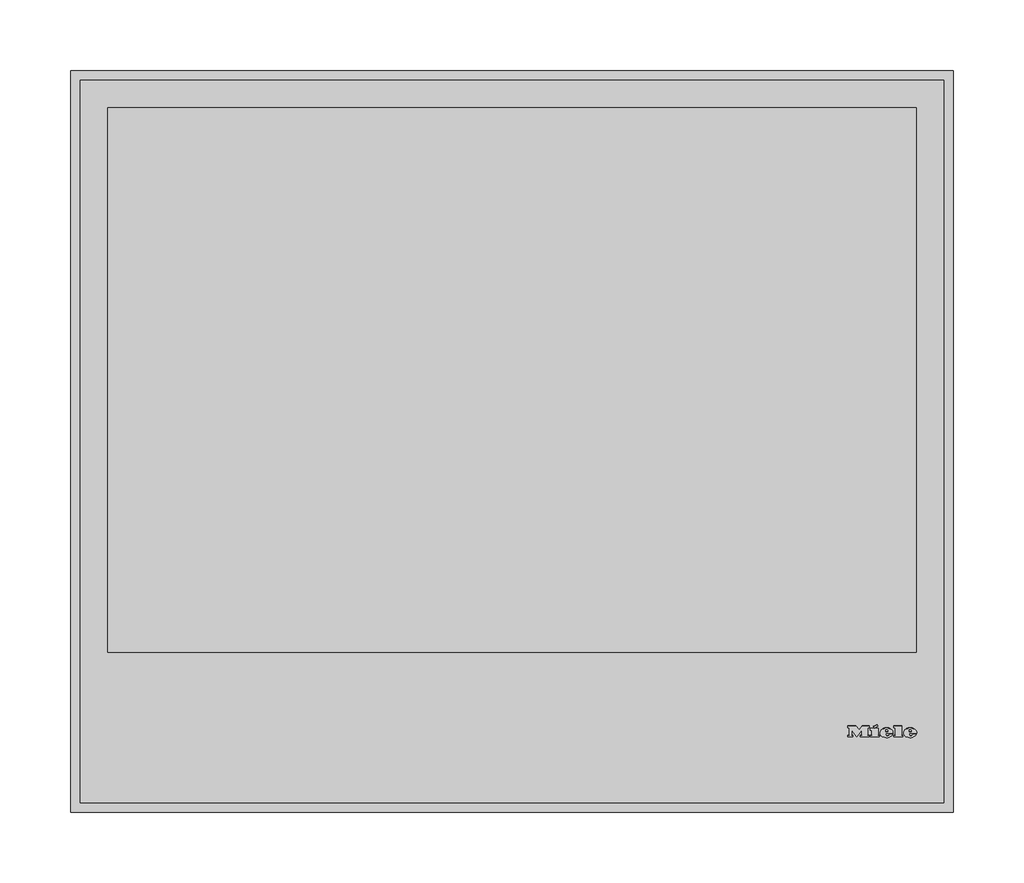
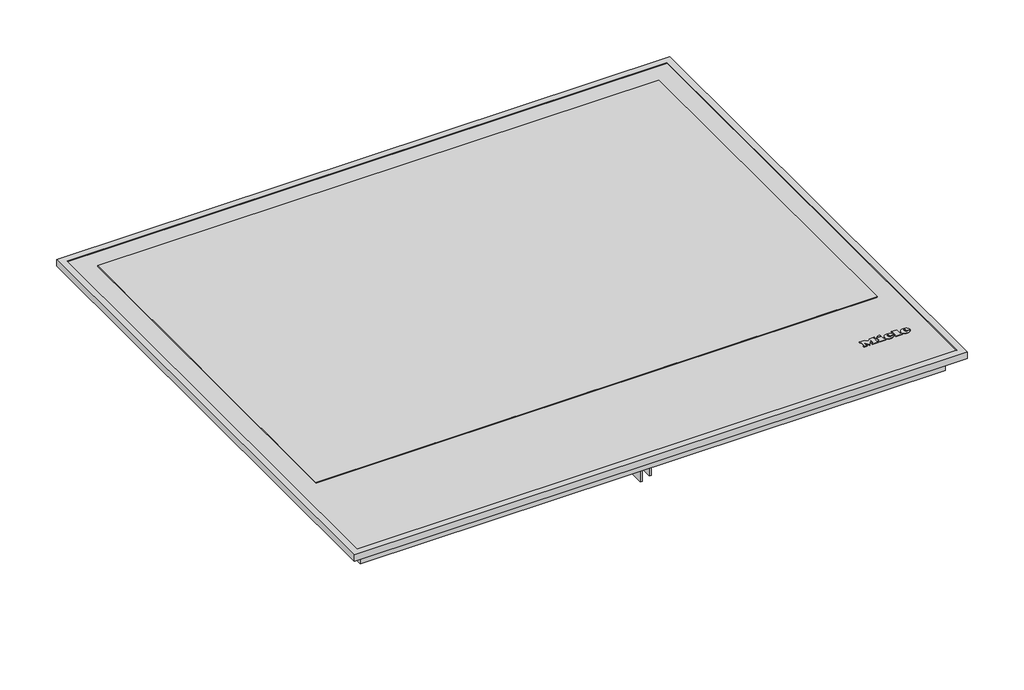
# Not in any storey: 1 proxy.
"""IFC4 building model written with IfcOpenShell, lengths in millimetres."""

import ifcopenshell
import ifcopenshell.guid

model = None  # the IFC model being written
_history = None  # IfcOwnerHistory: only IFC2X3 demands one
_inside = {}  # id of a spatial element -> (the spatial element, [elements in it])
_under = {}  # id of a project, library or spatial element -> (it, [spatial elements below it])
_declared = {}  # id of a project -> (the project, [libraries it declares])
_typed = {}  # id of a type object -> (the type object, [elements of that type])
_made_of = {}  # id of a material, layer set ... -> (it, [elements and type objects made of it])


def new_model(schema):
    """Start an empty IFC model of exactly this schema.

    Asked for "IFC4X3", IfcOpenShell would pick the latest addendum, in which some entities
    have other attributes; the version numbers below select the first issue.
    IFC2X3 requires an IfcOwnerHistory on every rooted entity: one is made here for all.
    """
    global model, _history
    if schema == "IFC4X3":
        model = ifcopenshell.file(schema_version=(4, 3, 0, 0))
    else:
        model = ifcopenshell.file(schema=schema)
    _inside.clear()
    _under.clear()
    _declared.clear()
    _typed.clear()
    _made_of.clear()
    _history = None
    if model.schema == "IFC2X3":
        org = make("IfcOrganization", Name="unknown")
        user = make(
            "IfcPersonAndOrganization",
            ThePerson=make("IfcPerson", FamilyName="unknown"),
            TheOrganization=org,
        )
        app = make(
            "IfcApplication",
            ApplicationDeveloper=org,
            Version="unknown",
            ApplicationFullName="unknown",
            ApplicationIdentifier="unknown",
        )
        _history = make(
            "IfcOwnerHistory",
            OwningUser=user,
            OwningApplication=app,
            ChangeAction="ADDED",
            CreationDate=0,
        )
    return model


def make(cls, **values):
    """One entity of the class cls with the attributes given. An attribute that is None is left unset."""
    return model.create_entity(
        cls, **{name: value for name, value in values.items() if value is not None}
    )


def rooted(cls, **values):
    """An entity with a GlobalId (a new one), such as an element, a storey or a relation."""
    return make(cls, GlobalId=ifcopenshell.guid.new(), OwnerHistory=_history, **values)


def si_unit(unit_type, name, prefix=None):
    """IfcSIUnit, for example si_unit("LENGTHUNIT", "METRE", prefix="MILLI")."""
    return make("IfcSIUnit", UnitType=unit_type, Prefix=prefix, Name=name)


def assignment(units):
    """IfcUnitAssignment: the units of a project."""
    return None if units is None else make("IfcUnitAssignment", Units=units)


def point(xyz):
    """IfcCartesianPoint."""
    return None if xyz is None else make("IfcCartesianPoint", Coordinates=xyz)


def direction(xyz):
    """IfcDirection."""
    return None if xyz is None else make("IfcDirection", DirectionRatios=xyz)


def frame(location, z_axis=None, x_axis=None):
    """IfcAxis2Placement3D, a coordinate frame: its origin and axes. An axis left out is left unset."""
    return make(
        "IfcAxis2Placement3D",
        Location=point(location),
        Axis=direction(z_axis),
        RefDirection=direction(x_axis),
    )


def frame_2d(location, x_axis=None):
    """IfcAxis2Placement2D, a coordinate frame in the plane: its origin and x axis."""
    return make(
        "IfcAxis2Placement2D", Location=point(location), RefDirection=direction(x_axis)
    )


def origin():
    """The frame at (0, 0, 0) with its axes left unset."""
    return frame((0.0, 0.0, 0.0))


def place(relative_to, where):
    """IfcLocalPlacement: puts the frame where relative to a parent placement (None: the world)."""
    return make(
        "IfcLocalPlacement", PlacementRelTo=relative_to, RelativePlacement=where
    )


def context(
    kind, dimensions, precision=None, world=None, true_north=None, identifier=None
):
    """IfcGeometricRepresentationContext, for example the 3D "Model" context."""
    return make(
        "IfcGeometricRepresentationContext",
        ContextIdentifier=identifier,
        ContextType=kind,
        CoordinateSpaceDimension=dimensions,
        Precision=precision,
        WorldCoordinateSystem=world,
        TrueNorth=true_north,
    )


def project(units=None, contexts=None):
    """IfcProject with its units and contexts."""
    return rooted(
        "IfcProject",
        Name="project",
        RepresentationContexts=contexts,
        UnitsInContext=assignment(units),
    )


def spatial(cls, under=None, at=None, **own):
    """A site, building, storey or space (cls), placed at a placement, below another one or the project."""
    s = rooted(cls, ObjectPlacement=at, **own)
    if under is not None:
        _under.setdefault(under.id(), (under, []))[1].append(s)
    return s


def polyline(points):
    """IfcPolyline through the points."""
    return make("IfcPolyline", Points=[point(p) for p in points])


def circle_curve(where, radius):
    """IfcCircle in the frame where."""
    return make("IfcCircle", Position=where, Radius=radius)


def ellipse_curve(where, semi_axis1, semi_axis2):
    """IfcEllipse in the frame where."""
    return make(
        "IfcEllipse", Position=where, SemiAxis1=semi_axis1, SemiAxis2=semi_axis2
    )


def trimmed(basis, trim1, trim2, sense, master):
    """IfcTrimmedCurve: the piece of a basis curve between two trims."""
    return make(
        "IfcTrimmedCurve",
        BasisCurve=basis,
        Trim1=trim1,
        Trim2=trim2,
        SenseAgreement=sense,
        MasterRepresentation=master,
    )


def segment(curve, same_sense, transition):
    """IfcCompositeCurveSegment."""
    return make(
        "IfcCompositeCurveSegment",
        Transition=transition,
        SameSense=same_sense,
        ParentCurve=curve,
    )


def composite_curve(segments, self_intersect=None):
    """IfcCompositeCurve: segments joined end to end."""
    return make("IfcCompositeCurve", Segments=segments, SelfIntersect=self_intersect)


def outline(outer, holes=None, kind="AREA"):
    """IfcArbitraryClosedProfileDef: a profile drawn as a closed curve; with holes, ...WithVoids."""
    if holes is None:
        return make("IfcArbitraryClosedProfileDef", ProfileType=kind, OuterCurve=outer)
    return make(
        "IfcArbitraryProfileDefWithVoids",
        ProfileType=kind,
        OuterCurve=outer,
        InnerCurves=holes,
    )


def extrude(swept, where, along, depth):
    """IfcExtrudedAreaSolid: the profile swept, set in the frame where, extruded along a direction by depth."""
    return make(
        "IfcExtrudedAreaSolid",
        SweptArea=swept,
        Position=where,
        ExtrudedDirection=direction(along),
        Depth=depth,
    )


def faces_of(points, faces, orient=None, outer=None):
    """IfcFace entities. A face is a list of loops; a loop is a list of indices into points, from 0.

    orient and outer hold one flag for each loop. By default every Orientation is true, the
    first loop of a face is its IfcFaceOuterBound and the others are IfcFaceBound.
    """
    made = []
    for i, loops in enumerate(faces):
        bounds = []
        for j, loop in enumerate(loops):
            is_outer = j == 0 if outer is None else outer[i][j]
            bounds.append(
                make(
                    "IfcFaceOuterBound" if is_outer else "IfcFaceBound",
                    Bound=make("IfcPolyLoop", Polygon=[points[k] for k in loop]),
                    Orientation=True if orient is None else orient[i][j],
                )
            )
        made.append(make("IfcFace", Bounds=bounds))
    return made


def faceted_brep(points, faces, orient=None, outer=None, voids=None):
    """IfcFacetedBrep: a solid bounded by flat faces; with voids (closed shells), ...WithVoids."""
    shared = [point(p) for p in points]
    hull = make("IfcClosedShell", CfsFaces=faces_of(shared, faces, orient, outer))
    if voids is None:
        return make("IfcFacetedBrep", Outer=hull)
    return make(
        "IfcFacetedBrepWithVoids",
        Outer=hull,
        Voids=[
            make(cls, CfsFaces=faces_of(shared, fs, o, b)) for cls, fs, o, b in voids
        ],
    )


def shape(context_of_items, identifier, shape_type, items):
    """IfcShapeRepresentation: the items that make up one representation, for example the "Body"."""
    return make(
        "IfcShapeRepresentation",
        ContextOfItems=context_of_items,
        RepresentationIdentifier=identifier,
        RepresentationType=shape_type,
        Items=items,
    )


def source(mapping_origin, context_of_items, identifier, shape_type, items):
    """IfcRepresentationMap: a shape defined once, which mapped items show again and again."""
    return make(
        "IfcRepresentationMap",
        MappingOrigin=mapping_origin,
        MappedRepresentation=shape(context_of_items, identifier, shape_type, items),
    )


def transform(
    local_origin,
    x_axis=None,
    y_axis=None,
    z_axis=None,
    scale=None,
    scale2=None,
    scale3=None,
    uniform=True,
):
    """IfcCartesianTransformationOperator3D, or its non-uniform kind. x_axis, y_axis, z_axis: its Axis1, 2, 3."""
    if uniform:
        return make(
            "IfcCartesianTransformationOperator3D",
            Axis1=direction(x_axis),
            Axis2=direction(y_axis),
            LocalOrigin=point(local_origin),
            Scale=scale,
            Axis3=direction(z_axis),
        )
    return make(
        "IfcCartesianTransformationOperator3DnonUniform",
        Axis1=direction(x_axis),
        Axis2=direction(y_axis),
        LocalOrigin=point(local_origin),
        Scale=scale,
        Axis3=direction(z_axis),
        Scale2=scale2,
        Scale3=scale3,
    )


def mapped(mapping_source, mapping_target):
    """IfcMappedItem: shows the shape of a source again, moved by a transform."""
    return make(
        "IfcMappedItem", MappingSource=mapping_source, MappingTarget=mapping_target
    )


def made_of(thing, what):
    """Note that an element or type object is made of a material, layer set ...; save() writes the relation."""
    if what is not None:
        _made_of.setdefault(what.id(), (what, []))[1].append(thing)
    return thing


def element(
    cls,
    number,
    at=None,
    inside=None,
    cuts=None,
    type_object=None,
    material=None,
    context=None,
    identifier="Body",
    shape_type=None,
    held_by="IfcProductDefinitionShape",
    body=None,
    shapes=None,
    **own,
):
    """One element of the class cls, such as IfcWall. Its Tag is "e" and its number.

    at: its placement. inside: the storey or other place that contains it. cuts: it is an
    opening in that element (IfcRelVoidsElement). A single representation is given by context,
    identifier, shape_type and body (its items); several are given by shapes. held_by: the class
    of the entity that holds the representations. save() writes the other relations.
    """
    e = rooted(cls, Tag="e%d" % number, ObjectPlacement=at, **own)
    if body is not None:
        shapes = [shape(context, identifier, shape_type, body)]
    if shapes is not None:
        e.Representation = make(held_by, Representations=shapes)
    if inside is not None:
        _inside.setdefault(inside.id(), (inside, []))[1].append(e)
    if cuts is not None:
        rooted(
            "IfcRelVoidsElement", RelatingBuildingElement=cuts, RelatedOpeningElement=e
        )
    if type_object is not None:
        _typed.setdefault(type_object.id(), (type_object, []))[1].append(e)
    return made_of(e, material)


def aggregate(whole, parts):
    """IfcRelAggregates: a whole, such as a stair, and the parts it consists of."""
    return rooted("IfcRelAggregates", RelatingObject=whole, RelatedObjects=parts)


def save(model, path):
    """Write the relations noted so far, then the file.

    IfcRelAggregates (storeys below a building ...), IfcRelContainedInSpatialStructure (elements
    in a storey), IfcRelDefinesByType, IfcRelAssociatesMaterial and IfcRelDeclares: one each for
    every whole, place, type object, material and project.
    """
    for whole, parts in _under.values():
        aggregate(whole, parts)
    for where, things in _inside.values():
        rooted(
            "IfcRelContainedInSpatialStructure",
            RelatedElements=things,
            RelatingStructure=where,
        )
    for kind, things in _typed.values():
        rooted("IfcRelDefinesByType", RelatedObjects=things, RelatingType=kind)
    for what, things in _made_of.values():
        rooted("IfcRelAssociatesMaterial", RelatedObjects=things, RelatingMaterial=what)
    for by, libraries in _declared.values():
        rooted("IfcRelDeclares", RelatingContext=by, RelatedDefinitions=libraries)
    model.write(path)


def plane_surface(at):
    """IfcPlane: the flat surface through the origin of the frame at, square to its z axis."""
    return make("IfcPlane", Position=at)


def cylinder_surface(at, radius):
    """IfcCylindricalSurface: all points at the distance radius from the z axis of the frame at."""
    return make("IfcCylindricalSurface", Position=at, Radius=radius)


def revolved_surface(curve, axis_point, axis_direction):
    """IfcSurfaceOfRevolution: the curve turned about the line through axis_point along axis_direction."""
    return make(
        "IfcSurfaceOfRevolution",
        SweptCurve=make("IfcArbitraryOpenProfileDef", ProfileType="CURVE", Curve=curve),
        AxisPosition=make("IfcAxis1Placement", Location=point(axis_point), Axis=direction(axis_direction)),
    )


def extruded_surface(curve, direction_of_extrusion, depth):
    """IfcSurfaceOfLinearExtrusion: the curve pushed along a direction by depth."""
    return make(
        "IfcSurfaceOfLinearExtrusion",
        SweptCurve=make("IfcArbitraryOpenProfileDef", ProfileType="CURVE", Curve=curve),
        ExtrudedDirection=direction(direction_of_extrusion),
        Depth=depth,
    )


def advanced_brep(points, edges, surfaces, faces):
    """IfcAdvancedBrep: a solid bounded by faces that lie on surfaces and meet in shared edges.

    An edge is (start, end): straight between two places in points (the first is 0);
    or (start, end, curve); or (start, end, curve, False) where it runs against its curve.
    A face is (place in surfaces, loops), or (place, loops, False) where it looks against
    its surface's normal. A loop lists edges by number (the first is 1), with a minus sign
    where the edge is run from its end to its start. The first loop is the outer one.
    """
    corners = [point(p) for p in points]
    vertices = [make("IfcVertexPoint", VertexGeometry=c) for c in corners]
    made = []
    for start, end, *more in edges:
        made.append(
            make(
                "IfcEdgeCurve",
                EdgeStart=vertices[start],
                EdgeEnd=vertices[end],
                EdgeGeometry=more[0] if more else make("IfcPolyline", Points=[corners[start], corners[end]]),
                SameSense=more[1] if len(more) > 1 else True,
            )
        )
    hull = []
    for where, loops, *sense in faces:
        bounds = []
        for j, loop in enumerate(loops):
            ring = [make("IfcOrientedEdge", EdgeElement=made[abs(k) - 1], Orientation=k > 0) for k in loop]
            bounds.append(
                make(
                    "IfcFaceOuterBound" if j == 0 else "IfcFaceBound",
                    Bound=make("IfcEdgeLoop", EdgeList=ring),
                    Orientation=True,
                )
            )
        hull.append(make("IfcAdvancedFace", Bounds=bounds, FaceSurface=surfaces[where], SameSense=sense[0] if sense else True))
    return make("IfcAdvancedBrep", Outer=make("IfcClosedShell", CfsFaces=hull))


def specialty_equipment_535f46d4(model_context):
    return source(origin(), model_context, "Body", "SolidModel", [
        advanced_brep(
        [(281.56, 55.3948833, 6.4802537), (281.56, 56.2028828, 6.4811551), (286.912, 56.2028828, 6.4811551), (277.6, 56.2028828, 6.4811551), (279.8, 53.4988845, 6.4781386), (286.776, 55.3948833, 6.4802537), (284.36, 55.3948833, 6.4802537), (282.456, 54.4988838, 6.4792542), (281.56, 57.2268821, 6.4822974), (281.56, 58.0988816, 6.4832701), (282.928, 58.0988816, 6.4832701), (282.928, 57.2268821, 6.4822974), (281.56, 55.3959988, 5.4802543), (282.456, 54.4999994, 5.4792548), (284.36, 55.3959988, 5.4802543), (286.776, 55.3959988, 5.4802543), (279.8, 53.5, 5.4781393), (277.6, 56.2039983, 5.4811557), (286.912, 56.2039983, 5.4811557), (281.56, 56.2039983, 5.4811557), (281.56, 57.2279977, 5.482298), (282.928, 57.2279977, 5.482298), (282.928, 58.0999971, 5.4832707), (281.56, 58.0999971, 5.4832707)],
        [
            (0, 1),
            (1, 2),
            (2, 3, ellipse_curve(frame((282.256, 56.2028828, 6.4811551), z_axis=(0.0, -0.0011155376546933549, 0.9999993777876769), x_axis=(-1.0, 0.0, 0.0)), 4.656, 3.848)),
            (3, 4, circle_curve(frame((280.6960436, 56.4748826, 6.4814585), z_axis=(0.0, -0.0011155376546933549, 0.9999993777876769), x_axis=(0.0, -0.9999993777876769, -0.0011155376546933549)), 3.1079688)),
            (4, 5, circle_curve(frame((282.1627936, 58.5868813, 6.4838145), z_axis=(0.0, -0.0011155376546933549, 0.9999993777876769), x_axis=(0.0, -0.9999993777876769, -0.0011155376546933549)), 5.6098607)),
            (5, 6),
            (6, 7, circle_curve(frame((282.8470588, 56.1388828, 6.4810837), z_axis=(0.0, 0.0011155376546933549, -0.9999993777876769), x_axis=(0.0, -0.9999993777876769, -0.0011155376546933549)), 1.6859795)),
            (7, 0, circle_curve(frame((282.456, 55.3948833, 6.4802537), z_axis=(0.0, 0.0011155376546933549, -0.9999993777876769), x_axis=(0.0, -0.9999993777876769, -0.0011155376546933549)), 0.896)),
            (8, 9),
            (9, 10, circle_curve(frame((282.244, 58.0988816, 6.4832701), z_axis=(0.0, 0.0011155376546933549, -0.9999993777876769), x_axis=(0.0, -0.9999993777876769, -0.0011155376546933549)), 0.684)),
            (10, 11),
            (11, 8),
            (12, 13, circle_curve(frame((282.456, 55.3959988, 5.4802543), z_axis=(0.0, -0.0011155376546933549, 0.9999993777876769), x_axis=(0.0, -0.9999993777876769, -0.0011155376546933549)), 0.896)),
            (13, 14, circle_curve(frame((282.8470588, 56.1399984, 5.4810843), z_axis=(0.0, -0.0011155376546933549, 0.9999993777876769), x_axis=(0.0, -0.9999993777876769, -0.0011155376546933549)), 1.6859795)),
            (14, 15),
            (15, 16, circle_curve(frame((282.1627936, 58.5879968, 5.4838151), z_axis=(0.0, 0.0011155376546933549, -0.9999993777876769), x_axis=(0.0, -0.9999993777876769, -0.0011155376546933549)), 5.6098607)),
            (16, 17, circle_curve(frame((280.6960436, 56.4759981, 5.4814591), z_axis=(0.0, 0.0011155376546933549, -0.9999993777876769), x_axis=(0.0, -0.9999993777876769, -0.0011155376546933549)), 3.1079688)),
            (17, 18, ellipse_curve(frame((282.256, 56.2039983, 5.4811557), z_axis=(0.0, 0.0011155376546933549, -0.9999993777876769), x_axis=(-1.0, 0.0, 0.0)), 4.656, 3.848)),
            (18, 19),
            (19, 12),
            (20, 21),
            (21, 22),
            (22, 23, circle_curve(frame((282.244, 58.0999971, 5.4832707), z_axis=(0.0, -0.0011155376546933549, 0.9999993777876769), x_axis=(0.0, -0.9999993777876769, -0.0011155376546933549)), 0.684)),
            (23, 20),
            (0, 12),
            (19, 1),
            (18, 2),
            (5, 15),
            (14, 6),
            (17, 3),
            (13, 7),
            (16, 4),
            (8, 20),
            (23, 9),
            (22, 10),
            (21, 11),
        ],
        [
            plane_surface(frame((281.56, 56.2028828, 6.4811551), z_axis=(0.0, -0.0011155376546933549, 0.9999993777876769), x_axis=(0.0, 0.9999993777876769, 0.0011155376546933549))),
            plane_surface(frame((281.56, 56.2039983, 5.4811557), z_axis=(0.0, 0.0011155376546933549, -0.9999993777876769), x_axis=(0.0, -0.9999993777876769, -0.0011155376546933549))),
            plane_surface(frame((281.56, 55.3948833, 6.4802537), z_axis=(1.0000000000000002, 0.0, 0.0), x_axis=(0.0, 0.001115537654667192, -0.999999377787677))),
            plane_surface(frame((281.56, 56.2028828, 6.4811551), z_axis=(0.0, -0.999999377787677, -0.001115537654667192), x_axis=(0.0, 0.001115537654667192, -0.999999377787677))),
            plane_surface(frame((286.776, 55.3948833, 6.4802537), z_axis=(0.0, 0.999999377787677, 0.001115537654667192), x_axis=(0.0, 0.001115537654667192, -0.999999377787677))),
            extruded_surface(trimmed(ellipse_curve(frame((282.256, 56.2051139, 4.4811563), z_axis=(0.0, -0.0011155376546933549, 0.9999993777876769), x_axis=(-1.0, 0.0, 0.0)), 4.656, 3.848), [point((286.912, 56.2051139, 4.4811563))], [point((277.6, 56.2051139, 4.4811563))], True, "CARTESIAN"), (0.0, -0.001115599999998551, 0.9999994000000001), 1.00000002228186),
            revolved_surface(polyline([(282.8470588, 54.454019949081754, 5.479203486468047), (282.8470588, 54.45290441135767, 6.4792029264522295)]), (282.8470588, 56.1399984, 5.4810843), (0.0, 0.0011155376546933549, -0.9999993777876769)),
            revolved_surface(polyline([(282.456, 54.49999935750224, 5.479254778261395), (282.456, 54.49888381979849, 6.479254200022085)]), (282.456, 55.3959988, 5.4802543), (0.0, 0.0011155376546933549, -0.9999993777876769)),
            cylinder_surface(frame((280.6960436, 56.4759981, 5.4814591), z_axis=(0.0, -0.0011155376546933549, 0.9999993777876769), x_axis=(0.0, -0.9999993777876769, -0.0011155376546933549)), 3.1079688),
            cylinder_surface(frame((282.1627936, 58.5879968, 5.4838151), z_axis=(0.0, -0.0011155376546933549, 0.9999993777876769), x_axis=(0.0, -0.9999993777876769, -0.0011155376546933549)), 5.6098607),
            plane_surface(frame((281.56, 57.2268821, 6.4822974), z_axis=(1.0000000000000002, 0.0, 0.0), x_axis=(0.0, 0.001115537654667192, -0.999999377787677))),
            revolved_surface(polyline([(282.244, 57.415997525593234, 5.48250767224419), (282.244, 57.41488198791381, 6.482507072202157)]), (282.244, 58.0999971, 5.4832707), (0.0, 0.0011155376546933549, -0.9999993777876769)),
            plane_surface(frame((282.928, 58.0988816, 6.4832701), z_axis=(-1.0000000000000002, 0.0, 0.0), x_axis=(0.0, 0.001115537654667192, -0.999999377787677))),
            plane_surface(frame((282.928, 57.2268821, 6.4822974), z_axis=(0.0, 0.999999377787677, 0.001115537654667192), x_axis=(0.0, 0.001115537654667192, -0.999999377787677))),
        ],
        [
            (0, [[1, 2, 3, 4, 5, 6, 7, 8], [9, 10, 11, 12]]),
            (1, [[13, 14, 15, 16, 17, 18, 19, 20], [21, 22, 23, 24]]),
            (2, [[-1, 25, -20, 26]]),
            (3, [[-2, -26, -19, 27]]),
            (4, [[-6, 28, -15, 29]]),
            (5, [[-3, -27, -18, 30]]),
            (6, [[-7, -29, -14, 31]]),
            (7, [[-8, -31, -13, -25]]),
            (8, [[-4, -30, -17, 32]]),
            (9, [[-5, -32, -16, -28]]),
            (10, [[-9, 33, -24, 34]]),
            (11, [[-10, -34, -23, 35]]),
            (12, [[-11, -35, -22, 36]]),
            (13, [[-12, -36, -21, -33]]),
        ],
    ),
        advanced_brep(
        [(264.864, 55.3948833, 6.4802537), (264.864, 56.2028828, 6.4811551), (270.216, 56.2028828, 6.4811551), (260.904, 56.2028828, 6.4811551), (263.104, 53.4988845, 6.4781386), (270.08, 55.3948833, 6.4802537), (267.664, 55.3948833, 6.4802537), (265.76, 54.4988838, 6.4792542), (264.864, 57.2268821, 6.4822974), (264.864, 58.0988816, 6.4832701), (266.232, 58.0988816, 6.4832701), (266.232, 57.2268821, 6.4822974), (264.864, 55.3959988, 5.4802543), (265.76, 54.4999994, 5.4792548), (267.664, 55.3959988, 5.4802543), (270.08, 55.3959988, 5.4802543), (263.104, 53.5, 5.4781393), (260.904, 56.2039983, 5.4811557), (270.216, 56.2039983, 5.4811557), (264.864, 56.2039983, 5.4811557), (264.864, 57.2279977, 5.482298), (266.232, 57.2279977, 5.482298), (266.232, 58.0999971, 5.4832707), (264.864, 58.0999971, 5.4832707)],
        [
            (0, 1),
            (1, 2),
            (2, 3, ellipse_curve(frame((265.56, 56.2028828, 6.4811551), z_axis=(0.0, -0.0011155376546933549, 0.9999993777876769), x_axis=(-1.0, 0.0, 0.0)), 4.656, 3.848)),
            (3, 4, circle_curve(frame((264.0000436, 56.4748826, 6.4814585), z_axis=(0.0, -0.0011155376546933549, 0.9999993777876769), x_axis=(0.0, -0.9999993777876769, -0.0011155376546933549)), 3.1079688)),
            (4, 5, circle_curve(frame((265.4667936, 58.5868813, 6.4838145), z_axis=(0.0, -0.0011155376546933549, 0.9999993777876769), x_axis=(0.0, -0.9999993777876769, -0.0011155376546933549)), 5.6098607)),
            (5, 6),
            (6, 7, circle_curve(frame((266.1510588, 56.1388828, 6.4810837), z_axis=(0.0, 0.0011155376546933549, -0.9999993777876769), x_axis=(0.0, -0.9999993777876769, -0.0011155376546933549)), 1.6859795)),
            (7, 0, circle_curve(frame((265.76, 55.3948833, 6.4802537), z_axis=(0.0, 0.0011155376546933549, -0.9999993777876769), x_axis=(0.0, -0.9999993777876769, -0.0011155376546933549)), 0.896)),
            (8, 9),
            (9, 10, circle_curve(frame((265.548, 58.0988816, 6.4832701), z_axis=(0.0, 0.0011155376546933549, -0.9999993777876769), x_axis=(0.0, -0.9999993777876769, -0.0011155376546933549)), 0.684)),
            (10, 11),
            (11, 8),
            (12, 13, circle_curve(frame((265.76, 55.3959988, 5.4802543), z_axis=(0.0, -0.0011155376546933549, 0.9999993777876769), x_axis=(0.0, -0.9999993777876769, -0.0011155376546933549)), 0.896)),
            (13, 14, circle_curve(frame((266.1510588, 56.1399984, 5.4810843), z_axis=(0.0, -0.0011155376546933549, 0.9999993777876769), x_axis=(0.0, -0.9999993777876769, -0.0011155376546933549)), 1.6859795)),
            (14, 15),
            (15, 16, circle_curve(frame((265.4667936, 58.5879968, 5.4838151), z_axis=(0.0, 0.0011155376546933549, -0.9999993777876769), x_axis=(0.0, -0.9999993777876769, -0.0011155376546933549)), 5.6098607)),
            (16, 17, circle_curve(frame((264.0000436, 56.4759981, 5.4814591), z_axis=(0.0, 0.0011155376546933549, -0.9999993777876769), x_axis=(0.0, -0.9999993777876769, -0.0011155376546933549)), 3.1079688)),
            (17, 18, ellipse_curve(frame((265.56, 56.2039983, 5.4811557), z_axis=(0.0, 0.0011155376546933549, -0.9999993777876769), x_axis=(-1.0, 0.0, 0.0)), 4.656, 3.848)),
            (18, 19),
            (19, 12),
            (20, 21),
            (21, 22),
            (22, 23, circle_curve(frame((265.548, 58.0999971, 5.4832707), z_axis=(0.0, -0.0011155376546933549, 0.9999993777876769), x_axis=(0.0, -0.9999993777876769, -0.0011155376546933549)), 0.684)),
            (23, 20),
            (0, 12),
            (19, 1),
            (18, 2),
            (5, 15),
            (14, 6),
            (17, 3),
            (13, 7),
            (16, 4),
            (8, 20),
            (23, 9),
            (22, 10),
            (21, 11),
        ],
        [
            plane_surface(frame((264.864, 56.2028828, 6.4811551), z_axis=(0.0, -0.0011155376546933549, 0.9999993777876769), x_axis=(0.0, 0.9999993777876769, 0.0011155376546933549))),
            plane_surface(frame((264.864, 56.2039983, 5.4811557), z_axis=(0.0, 0.0011155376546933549, -0.9999993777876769), x_axis=(0.0, -0.9999993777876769, -0.0011155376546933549))),
            plane_surface(frame((264.864, 55.3948833, 6.4802537), z_axis=(1.0000000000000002, 0.0, 0.0), x_axis=(0.0, 0.001115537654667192, -0.999999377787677))),
            plane_surface(frame((264.864, 56.2028828, 6.4811551), z_axis=(0.0, -0.999999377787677, -0.001115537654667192), x_axis=(0.0, 0.001115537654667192, -0.999999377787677))),
            plane_surface(frame((270.08, 55.3948833, 6.4802537), z_axis=(0.0, 0.999999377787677, 0.001115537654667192), x_axis=(0.0, 0.001115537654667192, -0.999999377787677))),
            extruded_surface(trimmed(ellipse_curve(frame((265.56, 56.2051139, 4.4811563), z_axis=(0.0, -0.0011155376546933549, 0.9999993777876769), x_axis=(-1.0, 0.0, 0.0)), 4.656, 3.848), [point((270.216, 56.2051139, 4.4811563))], [point((260.904, 56.2051139, 4.4811563))], True, "CARTESIAN"), (0.0, -0.001115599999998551, 0.9999994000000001), 1.00000002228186),
            revolved_surface(polyline([(266.1510588, 54.454019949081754, 5.479203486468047), (266.1510588, 54.45290441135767, 6.4792029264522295)]), (266.1510588, 56.1399984, 5.4810843), (0.0, 0.0011155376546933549, -0.9999993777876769)),
            revolved_surface(polyline([(265.76, 54.49999935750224, 5.479254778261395), (265.76, 54.49888381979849, 6.479254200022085)]), (265.76, 55.3959988, 5.4802543), (0.0, 0.0011155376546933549, -0.9999993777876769)),
            cylinder_surface(frame((264.0000436, 56.4759981, 5.4814591), z_axis=(0.0, -0.0011155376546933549, 0.9999993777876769), x_axis=(0.0, -0.9999993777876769, -0.0011155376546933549)), 3.1079688),
            cylinder_surface(frame((265.4667936, 58.5879968, 5.4838151), z_axis=(0.0, -0.0011155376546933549, 0.9999993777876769), x_axis=(0.0, -0.9999993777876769, -0.0011155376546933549)), 5.6098607),
            plane_surface(frame((264.864, 57.2268821, 6.4822974), z_axis=(1.0000000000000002, 0.0, 0.0), x_axis=(0.0, 0.001115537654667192, -0.999999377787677))),
            revolved_surface(polyline([(265.548, 57.415997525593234, 5.48250767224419), (265.548, 57.41488198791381, 6.482507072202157)]), (265.548, 58.0999971, 5.4832707), (0.0, 0.0011155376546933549, -0.9999993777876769)),
            plane_surface(frame((266.232, 58.0988816, 6.4832701), z_axis=(-1.0000000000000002, 0.0, 0.0), x_axis=(0.0, 0.001115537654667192, -0.999999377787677))),
            plane_surface(frame((266.232, 57.2268821, 6.4822974), z_axis=(0.0, 0.999999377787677, 0.001115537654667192), x_axis=(0.0, 0.001115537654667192, -0.999999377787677))),
        ],
        [
            (0, [[1, 2, 3, 4, 5, 6, 7, 8], [9, 10, 11, 12]]),
            (1, [[13, 14, 15, 16, 17, 18, 19, 20], [21, 22, 23, 24]]),
            (2, [[-1, 25, -20, 26]]),
            (3, [[-2, -26, -19, 27]]),
            (4, [[-6, 28, -15, 29]]),
            (5, [[-3, -27, -18, 30]]),
            (6, [[-7, -29, -14, 31]]),
            (7, [[-8, -31, -13, -25]]),
            (8, [[-4, -30, -17, 32]]),
            (9, [[-5, -32, -16, -28]]),
            (10, [[-9, 33, -24, 34]]),
            (11, [[-10, -34, -23, 35]]),
            (12, [[-11, -35, -22, 36]]),
            (13, [[-12, -36, -21, -33]]),
        ],
    ),
        extrude(outline(polyline([(0.0, 0.0), (-0.0109086, -2.9993294), (-1.4390415, -2.9920868), (-1.4315307, 0.0), (0.0, 0.0)])), frame((256.12, 61.0279953, 5.486537), z_axis=(0.0, -0.001115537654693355, 0.999999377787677), x_axis=(-0.4247202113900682, 0.9053240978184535, 0.0010099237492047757)), (0.0, 0.0, 1.0), 1.0),
        extrude(outline(polyline([(-0.4933908, 2.4141097), (-2.7800844, -2.4601583), (-7.0459741, -0.4588767), (-7.4401145, -1.299018), (-8.6568709, -0.728194), (-5.9760369, 4.9862153), (-4.7592805, 4.4153913), (-5.1636142, 3.5535222), (-2.1941493, 2.1604399), (-1.7898157, 3.022309), (-0.4933908, 2.4141097)])), frame((256.12, 61.0279953, 5.486537), z_axis=(0.0, -0.001115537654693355, 0.999999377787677), x_axis=(-0.4247202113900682, 0.9053240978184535, 0.0010099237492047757)), (0.0, 0.0, 1.0), 1.0),
        extrude(outline(polyline([(0.0, 0.0), (0.0, -1.304), (-5.504, -1.304), (-5.504, 5.3519999), (-6.488, 5.3519999), (-6.488, 6.696), (0.0, 6.696), (0.0, 5.3519999), (-0.96, 5.3519999), (-0.96, 0.0), (0.0, 0.0)])), frame((270.664, 60.1959958, 5.4856089), z_axis=(0.0, -0.0011155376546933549, 0.9999993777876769), x_axis=(-1.0, 0.0, 0.0)), (0.0, 0.0, 1.0), 1.0),
        extrude(outline(polyline([(0.0, 0.0), (0.0, -1.304), (-5.576, -1.304), (-7.92, 1.696), (-10.256, -1.304), (-15.128, -1.304), (-15.128, 0.0), (-14.112, 0.0), (-14.112, 5.3519999), (-15.128, 5.3519999), (-15.128, 6.696), (-8.744, 6.696), (-8.744, 5.3519999), (-9.728, 5.3519999), (-9.728, 1.8807777), (-6.136, 6.696), (-2.56, 1.9488752), (-2.56, 5.3519999), (-3.52, 5.3519999), (-3.52, 6.696), (0.0, 6.696), (0.0, 5.3519999), (-0.968, 5.3519999), (-0.968, 0.0), (0.0, 0.0)])), frame((238.2, 60.1959958, 5.4856089), z_axis=(0.0, -0.0011155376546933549, 0.9999993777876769), x_axis=(-1.0, 0.0, 0.0)), (0.0, 0.0, 1.0), 1.0),
        extrude(outline(polyline([(210.7772603, 467.0), (203.4, 467.0), (203.4, 468.2557039), (209.5215564, 468.2557039), (209.5215564, 471.5519266), (203.870889, 471.5519266), (203.870889, 472.8076304), (209.5215564, 472.8076304), (209.5215564, 475.7899271), (203.556963, 475.7899271), (203.556963, 477.045631), (210.7772603, 477.045631), (210.7772603, 467.0)])), frame((0.0, 0.0, -77.5), z_axis=(0.0, 0.0, 1.0), x_axis=(1.0, 0.0, 0.0)), (0.0, 0.0, 1.0), 1.0),
        extrude(outline(polyline([(201.5164442, 467.0), (195.2379248, 467.0), (195.2379248, 468.2557039), (200.2607403, 468.2557039), (200.2607403, 477.045631), (201.5164442, 477.045631), (201.5164442, 467.0)])), frame((0.0, 0.0, -77.5), z_axis=(0.0, 0.0, 1.0), x_axis=(1.0, 0.0, 0.0)), (0.0, 0.0, 1.0), 1.0),
        extrude(outline(polyline([(17.0, -27.0), (17.0, -16.8), (65.5, -16.8), (65.5, -43.0), (33.0, -43.0), (33.0, -27.0), (17.0, -27.0)])), frame((-2.0, 0.0, 0.0), z_axis=(1.0, 0.0, 0.0), x_axis=(0.0, 1.0, 0.0)), (0.0, 0.0, 1.0), 2.0),
        extrude(outline(polyline([(493.0, -27.0), (493.0, -43.0), (485.5, -43.0), (485.5, -16.8), (509.0, -16.8), (509.0, -27.0), (493.0, -27.0)])), frame((-2.0, 0.0, 0.0), z_axis=(1.0, 0.0, 0.0), x_axis=(0.0, 1.0, 0.0)), (0.0, 0.0, 1.0), 2.0),
        extrude(outline(polyline([(265.5, 485.5), (265.5, 65.5), (-265.5, 65.5), (-265.5, 485.5), (265.5, 485.5)])), frame((0.0, 0.0, -46.5), z_axis=(0.0, 0.0, 1.0), x_axis=(1.0, 0.0, 0.0)), (0.0, 0.0, 1.0), 29.7),
        extrude(outline(polyline([(312.0, 524.0), (312.0, 1.0), (-312.0, 1.0), (-312.0, 524.0), (312.0, 524.0)])), frame((0.0, 0.0, 2.0), z_axis=(0.0, 0.0, 1.0), x_axis=(1.0, 0.0, 0.0)), (0.0, 0.0, 1.0), 4.0),
        extrude(outline(polyline([(298.5, 511.5), (298.5, 14.5), (-298.5, 14.5), (-298.5, 511.5), (298.5, 511.5)])), frame((0.0, 0.0, -16.8), z_axis=(0.0, 0.0, 1.0), x_axis=(1.0, 0.0, 0.0)), (0.0, 0.0, 1.0), 18.8),
        faceted_brep([(306.0, 519.0, 7.0), (306.0, 519.0, 6.0), (306.0, 7.0, 6.0), (306.0, 7.0, 7.0), (313.0, 526.0, 0.0), (313.0, 526.0, 7.0), (313.0, 0.0, 7.0), (313.0, 0.0, 0.0), (312.0, 525.0, 6.0), (312.0, 525.0, 0.0), (312.0, 1.0, 0.0), (312.0, 1.0, 6.0), (-306.0, 7.0, 6.0), (-306.0, 7.0, 7.0), (-313.0, 0.0, 7.0), (-313.0, 0.0, 0.0), (-312.0, 1.0, 0.0), (-312.0, 1.0, 6.0), (-306.0, 519.0, 6.0), (-306.0, 519.0, 7.0), (-313.0, 526.0, 7.0), (-313.0, 526.0, 0.0), (-312.0, 525.0, 0.0), (-312.0, 525.0, 6.0)], [[[0, 1, 2, 3]], [[4, 5, 6, 7]], [[8, 9, 10, 11]], [[3, 2, 12, 13]], [[7, 6, 14, 15]], [[11, 10, 16, 17]], [[13, 12, 18, 19]], [[15, 14, 20, 21]], [[17, 16, 22, 23]], [[19, 18, 1, 0]], [[5, 20, 14, 6], [3, 13, 19, 0]], [[21, 20, 5, 4]], [[7, 15, 21, 4], [9, 22, 16, 10]], [[23, 22, 9, 8]], [[11, 17, 23, 8], [1, 18, 12, 2]]]),
        extrude(outline(composite_curve([segment(trimmed(circle_curve(frame_2d((203.4, 472.0)), 7.5), [point((203.4, 479.5))], [point((203.4, 464.5))], False, "CARTESIAN"), True, "CONTINUOUS"), segment(trimmed(circle_curve(frame_2d((203.4, 472.0)), 7.5), [point((203.4, 464.5))], [point((203.4, 479.5))], False, "CARTESIAN"), True, "CONTINUOUS")], self_intersect=False)), frame((0.0, 0.0, -76.5), z_axis=(0.0, 0.0, 1.0), x_axis=(1.0, 0.0, 0.0)), (0.0, 0.0, 1.0), 30.0),
        extrude(outline(polyline([(286.5, 499.5), (286.5, 113.5), (-286.5, 113.5), (-286.5, 499.5), (286.5, 499.5)])), frame((0.0, 0.0, 6.0), z_axis=(0.0, 0.0, 1.0), x_axis=(1.0, 0.0, 0.0)), (0.0, 0.0, 1.0), 1.0),
        extrude(outline(composite_curve([segment(trimmed(circle_curve(frame_2d((-291.0, 83.0)), 3.0), [point((-291.0, 86.0))], [point((-291.0, 80.0))], False, "CARTESIAN"), True, "CONTINUOUS"), segment(trimmed(circle_curve(frame_2d((-291.0, 83.0)), 3.0), [point((-291.0, 80.0))], [point((-291.0, 86.0))], False, "CARTESIAN"), True, "CONTINUOUS")], self_intersect=False)), frame((0.0, 0.0, -22.0), z_axis=(0.0, 0.0, 1.0), x_axis=(1.0, 0.0, 0.0)), (0.0, 0.0, 1.0), 5.2),
        extrude(outline(composite_curve([segment(trimmed(circle_curve(frame_2d((291.0, 443.0)), 3.0), [point((291.0, 446.0))], [point((291.0, 440.0))], False, "CARTESIAN"), True, "CONTINUOUS"), segment(trimmed(circle_curve(frame_2d((291.0, 443.0)), 3.0), [point((291.0, 440.0))], [point((291.0, 446.0))], False, "CARTESIAN"), True, "CONTINUOUS")], self_intersect=False)), frame((0.0, 0.0, -22.0), z_axis=(0.0, 0.0, 1.0), x_axis=(1.0, 0.0, 0.0)), (0.0, 0.0, 1.0), 5.2),
    ])


model = new_model("IFC4")

# Units and contexts
model_context = context("Model", 3, world=origin())
ifc_project = project(units=[si_unit("LENGTHUNIT", "METRE", prefix="MILLI")], contexts=[model_context])

# Site, building
site = spatial("IfcSite", under=ifc_project)
building = spatial("IfcBuilding", under=site)

# Proxy
placement = place(None, origin())
specialty_equipment_shape = specialty_equipment_535f46d4(model_context)
element("IfcBuildingElementProxy", 1, Name="11144360_NER_KM7667FR : 26766700_NER_11144360_KM7667FR", ObjectType="11144360_NER_KM7667FR : 26766700_NER_11144360_KM7667FR", at=placement, inside=building, context=model_context, shape_type="MappedRepresentation", body=[
    mapped(specialty_equipment_shape, transform((0.0, 0.0, 0.0), x_axis=(1.0, 0.0, 0.0), y_axis=(0.0, 1.0, 0.0), z_axis=(0.0, 0.0, 1.0))),
])

save(model, "model.ifc")
